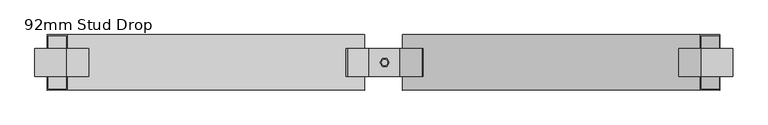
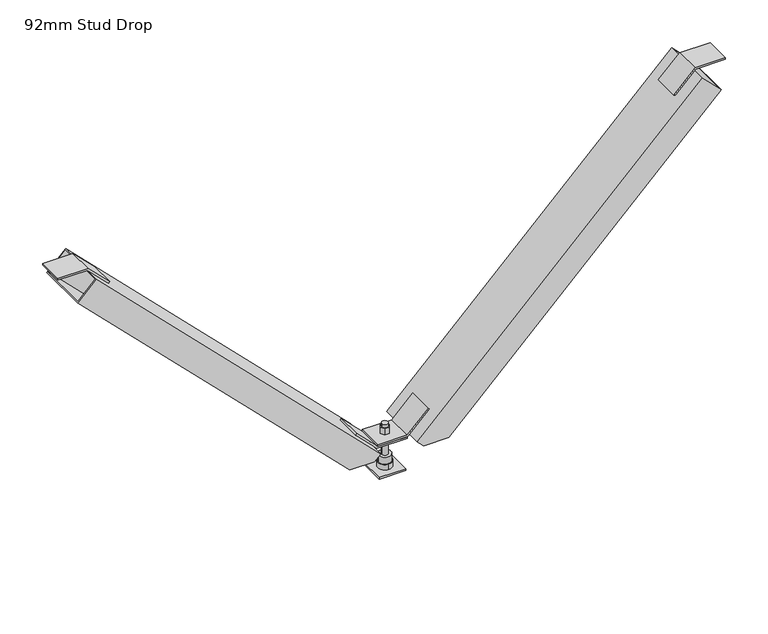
"""IFC4 building model written with IfcOpenShell, lengths in millimetres: beam geometry, Vertibrace Boxstud Brace : 92mm Stud Drop."""

from ifc_helpers import new_model, si_unit, frame, origin, origin_with_axes, place, context, project, spatial, polyline, circle_curve, outline, extrude, faceted_brep, source, transform, mapped, element, save
from ifc_brep_helpers import plane_surface, cylinder_surface, advanced_brep


def beam_92mm_stud_drop_e6e0bc5a(model_context):
    return source(origin(), model_context, "Body", "SolidModel", [
        extrude(outline(polyline([(547.0013294, 513.8434194), (547.0013294, 563.8278886), (550.0, 563.8278886), (550.0, 512.6013294), (513.7773526, 476.378682), (511.6569723, 478.4990623), (547.0013294, 513.8434194)])), frame((0.0, -22.5, 0.0), z_axis=(0.0, 1.0, 0.0), x_axis=(0.0, 0.0, 1.0)), (0.0, 0.0, 1.0), 45.0),
        extrude(outline(polyline([(547.0013294, -516.535654), (511.6569723, -481.1912969), (513.7773526, -479.0709166), (550.0, -515.293564), (550.0, -566.5201232), (547.0013294, -566.5201232), (547.0013294, -516.535654)])), frame((0.0, -22.5, 0.0), z_axis=(0.0, 1.0, 0.0), x_axis=(0.0, 0.0, 1.0)), (0.0, 0.0, 1.0), 45.0),
        extrude(outline(polyline([(62.6986706, 24.9922346), (62.6986706, -24.9922346), (59.7, -24.9922346), (59.7, 26.2343246), (95.9226474, 62.456972), (98.0430277, 60.3365917), (62.6986706, 24.9922346)])), frame((0.0, -22.5, 0.0), z_axis=(0.0, 1.0, 0.0), x_axis=(0.0, 0.0, 1.0)), (0.0, 0.0, 1.0), 45.0),
        extrude(outline(polyline([(59.6986706, -24.9922346), (95.0430277, -60.3365917), (92.9226474, -62.456972), (56.7, -26.2343246), (56.7, 24.9922346), (59.6986706, 24.9922346), (59.6986706, -24.9922346)])), frame((0.0, -22.5, 0.0), z_axis=(0.0, 1.0, 0.0), x_axis=(0.0, 0.0, 1.0)), (0.0, 0.0, 1.0), 45.0),
        extrude(outline(polyline([(22.5, 22.5), (22.5, -22.5), (-22.5, -22.5), (-22.5, 22.5), (22.5, 22.5)])), origin_with_axes(), (0.0, 0.0, 1.0), 3.0),
        advanced_brep(
        [(-5.0, 0.0, -10.0), (5.0, 0.0, -10.0), (-5.0, 0.0, 80.0), (5.0, 0.0, 80.0), (5.0, 0.0, 3.0), (-5.0, 0.0, 3.0), (-5.0, 0.0, 74.4), (5.0, 0.0, 74.4), (-5.0, 0.0, 25.0), (5.0, 0.0, 25.0), (5.0, 0.0, 50.0), (-5.0, 0.0, 50.0), (5.0, 0.0, 62.7), (-5.0, 0.0, 62.7), (-5.0, 0.0, 56.7), (5.0, 0.0, 56.7), (-10.5, 0.0, 25.0), (10.5, 0.0, 25.0), (-10.5, 0.0, 13.0), (10.5, 0.0, 13.0), (0.0, -12.0, 13.0), (0.0, 12.0, 13.0), (3.75, 6.4951905, 74.4), (-3.75, 6.4951905, 74.4), (-7.5, 0.0, 74.4), (-3.75, -6.4951905, 74.4), (3.75, -6.4951905, 74.4), (7.5, 0.0, 74.4), (3.75, 6.4951905, 62.7), (7.5, 0.0, 62.7), (3.75, -6.4951905, 62.7), (-3.75, -6.4951905, 62.7), (-7.5, 0.0, 62.7), (-3.75, 6.4951905, 62.7), (-10.9696551, 0.0, 56.7), (-5.4848276, -9.5, 56.7), (5.4848276, -9.5, 56.7), (10.9696551, 0.0, 56.7), (5.4848276, 9.5, 56.7), (-5.4848276, 9.5, 56.7), (-10.9696551, 0.0, 50.0), (-5.4848276, 9.5, 50.0), (5.4848276, 9.5, 50.0), (10.9696551, 0.0, 50.0), (5.4848276, -9.5, 50.0), (-5.4848276, -9.5, 50.0), (0.0, -12.0, 3.0), (0.0, 12.0, 3.0)],
        [
            (0, 1, circle_curve(frame((0.0, 0.0, -10.0), z_axis=(0.0, 0.0, -1.0), x_axis=(1.0, 0.0, 0.0)), 5.0)),
            (1, 0, circle_curve(frame((0.0, 0.0, -10.0), z_axis=(0.0, 0.0, -1.0), x_axis=(1.0, 0.0, 0.0)), 5.0)),
            (2, 3, circle_curve(frame((0.0, 0.0, 80.0), z_axis=(0.0, 0.0, 1.0), x_axis=(1.0, 0.0, 0.0)), 5.0)),
            (3, 2, circle_curve(frame((0.0, 0.0, 80.0), z_axis=(0.0, 0.0, 1.0), x_axis=(1.0, 0.0, 0.0)), 5.0)),
            (1, 4),
            (4, 5, circle_curve(frame((0.0, 0.0, 3.0), z_axis=(0.0, 0.0, -1.0), x_axis=(1.0, 0.0, 0.0)), 5.0)),
            (5, 0),
            (2, 6),
            (6, 7, circle_curve(frame((0.0, 0.0, 74.4), z_axis=(0.0, 0.0, 1.0), x_axis=(1.0, 0.0, 0.0)), 5.0)),
            (7, 3),
            (8, 9, circle_curve(frame((0.0, 0.0, 25.0), z_axis=(0.0, 0.0, 1.0), x_axis=(1.0, 0.0, 0.0)), 5.0)),
            (9, 10),
            (10, 11, circle_curve(frame((0.0, 0.0, 50.0), z_axis=(0.0, 0.0, -1.0), x_axis=(1.0, 0.0, 0.0)), 5.0)),
            (11, 8),
            (12, 13, circle_curve(frame((0.0, 0.0, 62.7), z_axis=(0.0, 0.0, -1.0), x_axis=(1.0, 0.0, 0.0)), 5.0)),
            (13, 14),
            (14, 15, circle_curve(frame((0.0, 0.0, 56.7), z_axis=(0.0, 0.0, 1.0), x_axis=(1.0, 0.0, 0.0)), 5.0)),
            (15, 12),
            (5, 4, circle_curve(frame((0.0, 0.0, 3.0), z_axis=(0.0, 0.0, -1.0), x_axis=(1.0, 0.0, 0.0)), 5.0)),
            (7, 6, circle_curve(frame((0.0, 0.0, 74.4), z_axis=(0.0, 0.0, 1.0), x_axis=(1.0, 0.0, 0.0)), 5.0)),
            (9, 8, circle_curve(frame((0.0, 0.0, 25.0), z_axis=(0.0, 0.0, 1.0), x_axis=(1.0, 0.0, 0.0)), 5.0)),
            (11, 10, circle_curve(frame((0.0, 0.0, 50.0), z_axis=(0.0, 0.0, -1.0), x_axis=(1.0, 0.0, 0.0)), 5.0)),
            (13, 12, circle_curve(frame((0.0, 0.0, 62.7), z_axis=(0.0, 0.0, -1.0), x_axis=(1.0, 0.0, 0.0)), 5.0)),
            (15, 14, circle_curve(frame((0.0, 0.0, 56.7), z_axis=(0.0, 0.0, 1.0), x_axis=(1.0, 0.0, 0.0)), 5.0)),
            (16, 17, circle_curve(frame((0.0, 0.0, 25.0), z_axis=(0.0, 0.0, 1.0), x_axis=(1.0, 0.0, 0.0)), 10.5)),
            (17, 16, circle_curve(frame((0.0, 0.0, 25.0), z_axis=(0.0, 0.0, 1.0), x_axis=(1.0, 0.0, 0.0)), 10.5)),
            (16, 18),
            (18, 19, circle_curve(frame((0.0, 0.0, 13.0), z_axis=(0.0, 0.0, 1.0), x_axis=(1.0, 0.0, 0.0)), 10.5)),
            (19, 17),
            (19, 18, circle_curve(frame((0.0, 0.0, 13.0), z_axis=(0.0, 0.0, 1.0), x_axis=(1.0, 0.0, 0.0)), 10.5)),
            (20, 21, circle_curve(frame((0.0, 0.0, 13.0), z_axis=(0.0, 0.0, 1.0), x_axis=(0.0, 1.0, 0.0)), 12.0)),
            (21, 20, circle_curve(frame((0.0, 0.0, 13.0), z_axis=(0.0, 0.0, 1.0), x_axis=(0.0, 1.0, 0.0)), 12.0)),
            (22, 23),
            (23, 24),
            (24, 25),
            (25, 26),
            (26, 27),
            (27, 22),
            (28, 29),
            (29, 30),
            (30, 31),
            (31, 32),
            (32, 33),
            (33, 28),
            (22, 28),
            (33, 23),
            (32, 24),
            (31, 25),
            (30, 26),
            (29, 27),
            (34, 35),
            (35, 36),
            (36, 37),
            (37, 38),
            (38, 39),
            (39, 34),
            (40, 41),
            (41, 42),
            (42, 43),
            (43, 44),
            (44, 45),
            (45, 40),
            (34, 40),
            (45, 35),
            (44, 36),
            (43, 37),
            (42, 38),
            (41, 39),
            (46, 47, circle_curve(frame((0.0, 0.0, 3.0), z_axis=(0.0, 0.0, -1.0), x_axis=(0.0, 1.0, 0.0)), 12.0)),
            (47, 46, circle_curve(frame((0.0, 0.0, 3.0), z_axis=(0.0, 0.0, -1.0), x_axis=(0.0, 1.0, 0.0)), 12.0)),
            (47, 21),
            (20, 46),
        ],
        [
            plane_surface(frame((5.0, 0.0, -10.0), z_axis=(0.0, 0.0, -1.0), x_axis=(0.0, -1.0, 0.0))),
            plane_surface(frame((5.0, 0.0, 80.0), z_axis=(0.0, 0.0, 1.0), x_axis=(0.0, 1.0, 0.0))),
            cylinder_surface(frame((0.0, 0.0, -10.0), z_axis=(0.0, 0.0, 1.0), x_axis=(1.0, 0.0, 0.0)), 5.0),
            plane_surface(frame((10.5, 0.0, 25.0), z_axis=(0.0, 0.0, 1.0), x_axis=(0.0, 1.0, 0.0))),
            cylinder_surface(frame((0.0, 0.0, 13.0), z_axis=(0.0, 0.0, 1.0), x_axis=(1.0, 0.0, 0.0)), 10.5),
            plane_surface(frame((0.0, 12.0, 13.0), z_axis=(0.0, 0.0, 1.0), x_axis=(-1.0, 0.0, 0.0))),
            plane_surface(frame((3.75, 6.4951905, 74.4), z_axis=(0.0, 0.0, 1.0), x_axis=(-1.0, 0.0, 0.0))),
            plane_surface(frame((3.75, 6.4951905, 62.7), z_axis=(0.0, 0.0, -1.0), x_axis=(1.0, 0.0, 0.0))),
            plane_surface(frame((3.75, 6.4951905, 74.4), z_axis=(0.0, 1.0, 0.0), x_axis=(0.0, 0.0, -1.0))),
            plane_surface(frame((-3.75, 6.4951905, 74.4), z_axis=(-0.866025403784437, 0.5000000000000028, 0.0), x_axis=(0.0, 0.0, -1.0))),
            plane_surface(frame((-7.5, 0.0, 74.4), z_axis=(-0.8660254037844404, -0.4999999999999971, 0.0), x_axis=(0.0, 0.0, -1.0))),
            plane_surface(frame((-3.75, -6.4951905, 74.4), z_axis=(0.0, -1.0, 0.0), x_axis=(0.0, 0.0, -1.0))),
            plane_surface(frame((3.75, -6.4951905, 74.4), z_axis=(0.8660254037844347, -0.500000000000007, 0.0), x_axis=(0.0, 0.0, -1.0))),
            plane_surface(frame((7.5, 0.0, 74.4), z_axis=(0.8660254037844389, 0.49999999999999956, 0.0), x_axis=(0.0, 0.0, -1.0))),
            plane_surface(frame((-10.9696551, 0.0, 56.7), z_axis=(0.0, 0.0, 1.0), x_axis=(0.49999999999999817, -0.8660254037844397, 0.0))),
            plane_surface(frame((-10.9696551, 0.0, 50.0), z_axis=(0.0, 0.0, -1.0), x_axis=(-0.49999999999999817, 0.8660254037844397, 0.0))),
            plane_surface(frame((-10.9696551, 0.0, 56.7), z_axis=(-0.8660254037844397, -0.49999999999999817, 0.0), x_axis=(0.0, 0.0, -1.0))),
            plane_surface(frame((-5.4848276, -9.5, 56.7), z_axis=(0.0, -1.0, 0.0), x_axis=(0.0, 0.0, -1.0))),
            plane_surface(frame((5.4848276, -9.5, 56.7), z_axis=(0.8660254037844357, -0.5000000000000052, 0.0), x_axis=(0.0, 0.0, -1.0))),
            plane_surface(frame((10.9696551, 0.0, 56.7), z_axis=(0.8660254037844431, 0.49999999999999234, 0.0), x_axis=(0.0, 0.0, -1.0))),
            plane_surface(frame((5.4848276, 9.5, 56.7), z_axis=(0.0, 1.0, 0.0), x_axis=(0.0, 0.0, -1.0))),
            plane_surface(frame((-5.4848276, 9.5, 56.7), z_axis=(-0.866025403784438, 0.5000000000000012, 0.0), x_axis=(0.0, 0.0, -1.0))),
            plane_surface(frame((0.0, 12.0, 3.0), z_axis=(0.0, 0.0, -1.0), x_axis=(1.0, 0.0, 0.0))),
            cylinder_surface(frame((0.0, 0.0, 3.0), z_axis=(0.0, 0.0, 1.0), x_axis=(0.0, 1.0, 0.0)), 12.0),
        ],
        [
            (0, [[1, 2]]),
            (1, [[3, 4]]),
            (2, [[-2, 5, 6, 7]]),
            (2, [[-3, 8, 9, 10]]),
            (2, [[11, 12, 13, 14]]),
            (2, [[15, 16, 17, 18]]),
            (2, [[-1, -7, 19, -5]]),
            (2, [[-4, -10, 20, -8]]),
            (2, [[21, -14, 22, -12]]),
            (2, [[23, -18, 24, -16]]),
            (3, [[25, 26], [-11, -21]]),
            (4, [[-25, 27, 28, 29]]),
            (4, [[-26, -29, 30, -27]]),
            (5, [[31, 32], [-28, -30]]),
            (6, [[33, 34, 35, 36, 37, 38], [-9, -20]]),
            (7, [[39, 40, 41, 42, 43, 44], [-15, -23]]),
            (8, [[-33, 45, -44, 46]]),
            (9, [[-34, -46, -43, 47]]),
            (10, [[-35, -47, -42, 48]]),
            (11, [[-36, -48, -41, 49]]),
            (12, [[-37, -49, -40, 50]]),
            (13, [[-38, -50, -39, -45]]),
            (14, [[51, 52, 53, 54, 55, 56], [-17, -24]]),
            (15, [[57, 58, 59, 60, 61, 62], [-13, -22]]),
            (16, [[-51, 63, -62, 64]]),
            (17, [[-52, -64, -61, 65]]),
            (18, [[-53, -65, -60, 66]]),
            (19, [[-54, -66, -59, 67]]),
            (20, [[-55, -67, -58, 68]]),
            (21, [[-56, -68, -57, -63]]),
            (22, [[69, 70], [-6, -19]]),
            (23, [[-70, 71, -31, 72]]),
            (23, [[-69, -72, -32, -71]]),
        ],
    ),
        faceted_brep([(39.9343246, 43.0, 52.0), (39.9343246, 45.0, 52.0), (82.1739349, 45.0, 52.0), (82.1739349, -45.0, 52.0), (39.9343246, -45.0, 52.0), (39.9343246, -43.0, 52.0), (79.3455078, -43.0, 52.0), (79.3455078, 43.0, 52.0), (29.2343246, -45.0, 62.7), (29.2343246, 45.0, 62.7), (30.6485382, 43.0, 61.2857864), (30.6485382, -43.0, 61.2857864), (511.5343246, 45.0, 545.0), (511.5343246, -45.0, 545.0), (543.3541298, -45.0, 513.1801948), (543.3541298, 45.0, 513.1801948), (541.9399162, -43.0, 514.5944084), (512.9485382, -43.0, 543.5857864), (512.9485382, 43.0, 543.5857864), (541.9399162, 43.0, 514.5944084)], [[[0, 1, 2, 3, 4, 5, 6, 7]], [[8, 9, 1, 0, 10, 11, 5, 4]], [[12, 13, 14, 15], [16, 17, 18, 19]], [[12, 15, 2, 1, 9]], [[15, 14, 3, 2]], [[16, 19, 7, 6]], [[19, 18, 10, 0, 7]], [[11, 10, 18, 17]], [[17, 16, 6, 5, 11]], [[14, 13, 8, 4, 3]], [[9, 8, 13, 12]]]),
        faceted_brep([(-32.5343246, 45.0, 63.0), (-32.5343246, -45.0, 63.0), (-43.5343246, -45.0, 52.0), (-43.5343246, -43.0, 52.0), (-33.9485382, -43.0, 61.5857864), (-33.9485382, 43.0, 61.5857864), (-43.5343246, 43.0, 52.0), (-43.5343246, 45.0, 52.0), (-514.4883773, -45.0, 544.9540527), (-514.4883773, 45.0, 544.9540527), (-546.3081825, 45.0, 513.1342476), (-546.3081825, -45.0, 513.1342476), (-544.8939689, 43.0, 514.5484611), (-515.9025909, 43.0, 543.5398392), (-515.9025909, -43.0, 543.5398392), (-544.8939689, -43.0, 514.5484611), (-85.1739349, -45.0, 52.0), (-85.1739349, 45.0, 52.0), (-82.3455078, 43.0, 52.0), (-82.3455078, -43.0, 52.0)], [[[0, 1, 2, 3, 4, 5, 6, 7]], [[8, 9, 10, 11], [12, 13, 14, 15]], [[8, 11, 16, 2, 1]], [[11, 10, 17, 16]], [[10, 9, 0, 7, 17]], [[1, 0, 9, 8]], [[3, 2, 16, 17, 7, 6, 18, 19]], [[12, 15, 19, 18]], [[15, 14, 4, 3, 19]], [[5, 4, 14, 13]], [[13, 12, 18, 6, 5]]]),
    ])


if __name__ == "__main__":
    model = new_model("IFC4")
    model_context = context("Model", 3, world=origin())
    ifc_project = project(units=[si_unit("LENGTHUNIT", "METRE", prefix="MILLI")], contexts=[model_context])
    site = spatial("IfcSite", under=ifc_project)
    building = spatial("IfcBuilding", under=site)
    placement = place(None, origin())
    beam_92mm_stud_drop_shape = beam_92mm_stud_drop_e6e0bc5a(model_context)
    element("IfcBeam", 1, ObjectType="Vertibrace Boxstud Brace : 92mm Stud Drop", at=placement, inside=building, context=model_context, shape_type="MappedRepresentation", body=[
        mapped(beam_92mm_stud_drop_shape, transform((0.0, 0.0, 0.0), x_axis=(1.0, 0.0, 0.0), y_axis=(0.0, 1.0, 0.0), z_axis=(0.0, 0.0, 1.0))),
    ])
    save(model, "model.ifc")
